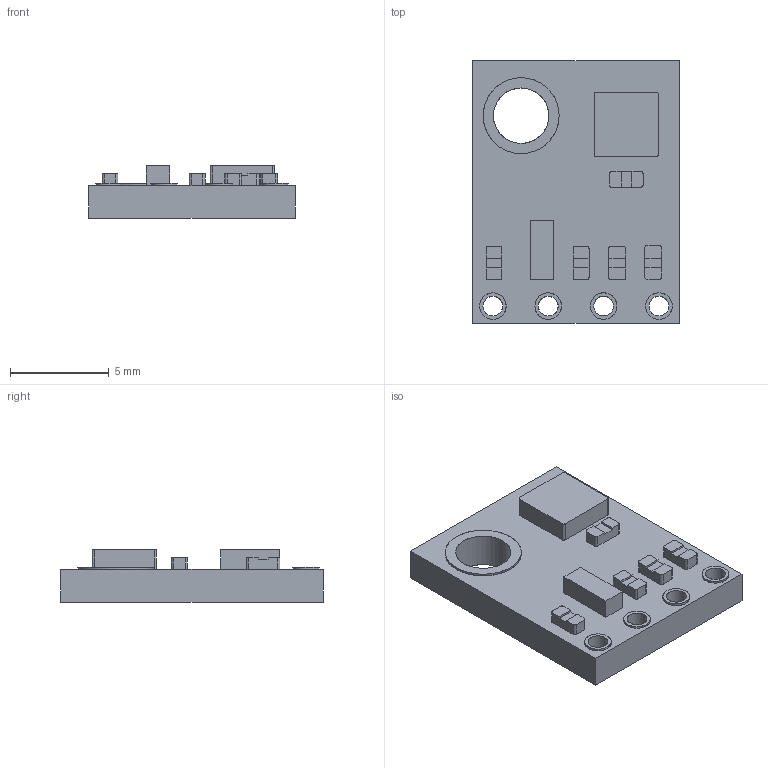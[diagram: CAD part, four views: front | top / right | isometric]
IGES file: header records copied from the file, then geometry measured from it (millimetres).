
Start section: SolidWorks IGES file using analytic representation for surfaces
Global section: file name: C:\Users\iseth\Google Drive\UAO\Microprocesadores\Proyecto Final\bmp180.IGS; native system: SolidWorks 2016; preprocessor: SolidWorks 2016; author: Karolina Seth; date: 161012.201000; units: millimetre
Bounding box: 10.45 x 13.3 x 2.66 mm (x, y, z)
Surface area: 414.8 mm2 (no closed solid volume)
Topology: 0 solids, 0 shells, 110 faces, 1064 edges, 1064 vertices
Faces by surface type: bspline 66, revolution 44
